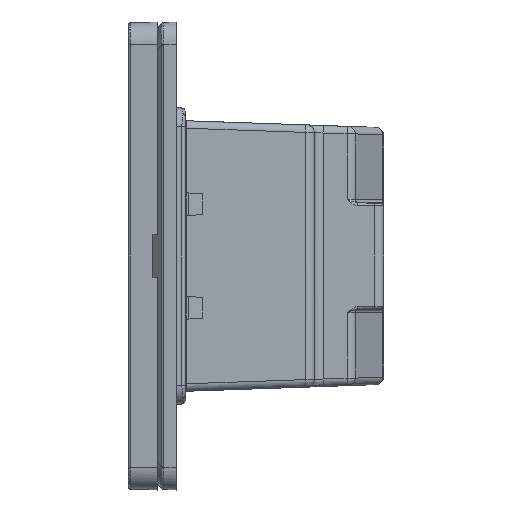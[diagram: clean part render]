
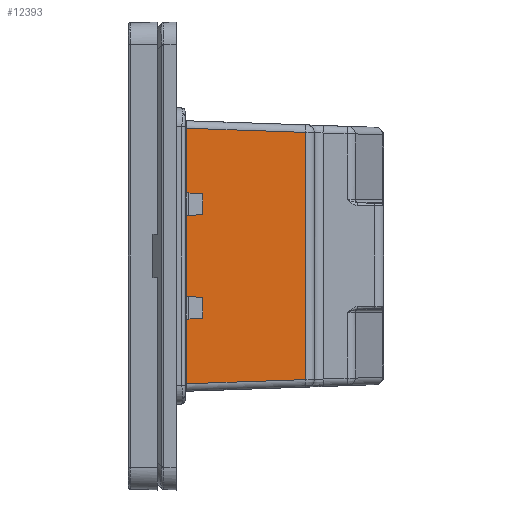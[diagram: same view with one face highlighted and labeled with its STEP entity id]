
A CAD part, left-side view. The second image highlights one B-rep face of the part: STEP entity #12393.
In plain terms, the highlighted planar face has unit normal (-0.999, -0.035, 0).
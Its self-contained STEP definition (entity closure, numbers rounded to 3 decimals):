
#2443 = LINE ( 'NONE', #21684, #29114 ) ;
#4140 = LINE ( 'NONE', #63516, #35721 ) ;
#5926 = VERTEX_POINT ( 'NONE', #62346 ) ;
#6907 = CARTESIAN_POINT ( 'NONE',  ( -31.875, -18.952, -19.676 ) ) ;
#9667 = EDGE_LOOP ( 'NONE', ( #57736, #55132, #40198, #53854 ) ) ;
#10542 = VECTOR ( 'NONE', #12475, 1000. ) ;
#11483 = EDGE_CURVE ( 'NONE', #5926, #55428, #17289, .T. ) ;
#12081 = DIRECTION ( 'NONE',  ( -0.035, 0.999, 0.035 ) ) ;
#12393 = ADVANCED_FACE ( 'NONE', ( #49853 ), #54980, .T. ) ;
#12475 = DIRECTION ( 'NONE',  ( 0., 0., -1. ) ) ;
#15620 = VECTOR ( 'NONE', #25629, 1000. ) ;
#15807 = DIRECTION ( 'NONE',  ( -0.999, -0.035, 0. ) ) ;
#16671 = VERTEX_POINT ( 'NONE', #6907 ) ;
#17289 = LINE ( 'NONE', #36870, #10542 ) ;
#21684 = CARTESIAN_POINT ( 'NONE',  ( -32.751, 6.142, 20.552 ) ) ;
#25629 = DIRECTION ( 'NONE',  ( 0.035, -0.999, 0.035 ) ) ;
#28657 = EDGE_CURVE ( 'NONE', #55428, #16671, #32015, .T. ) ;
#29114 = VECTOR ( 'NONE', #12081, 1000. ) ;
#32015 = LINE ( 'NONE', #55161, #15620 ) ;
#32128 = AXIS2_PLACEMENT_3D ( 'NONE', #45654, #15807, #40187 ) ;
#35721 = VECTOR ( 'NONE', #44550, 1000. ) ;
#36870 = CARTESIAN_POINT ( 'NONE',  ( -32.534, -0.09, 21.75 ) ) ;
#40187 = DIRECTION ( 'NONE',  ( -0.035, 0.999, 0. ) ) ;
#40198 = ORIENTED_EDGE ( 'NONE', *, *, #28657, .T. ) ;
#42317 = EDGE_CURVE ( 'NONE', #16671, #61753, #4140, .T. ) ;
#44550 = DIRECTION ( 'NONE',  ( 0., 0., 1. ) ) ;
#45636 = CARTESIAN_POINT ( 'NONE',  ( -31.875, -18.952, 19.676 ) ) ;
#45654 = CARTESIAN_POINT ( 'NONE',  ( -32.75, 6.1, 21.75 ) ) ;
#49853 = FACE_OUTER_BOUND ( 'NONE', #9667, .T. ) ;
#49998 = CARTESIAN_POINT ( 'NONE',  ( -32.534, -0.09, -20.335 ) ) ;
#53854 = ORIENTED_EDGE ( 'NONE', *, *, #42317, .T. ) ;
#54980 = PLANE ( 'NONE',  #32128 ) ;
#55132 = ORIENTED_EDGE ( 'NONE', *, *, #11483, .T. ) ;
#55161 = CARTESIAN_POINT ( 'NONE',  ( -32.699, 4.626, -20.499 ) ) ;
#55428 = VERTEX_POINT ( 'NONE', #49998 ) ;
#57736 = ORIENTED_EDGE ( 'NONE', *, *, #62324, .T. ) ;
#61753 = VERTEX_POINT ( 'NONE', #45636 ) ;
#62324 = EDGE_CURVE ( 'NONE', #61753, #5926, #2443, .T. ) ;
#62346 = CARTESIAN_POINT ( 'NONE',  ( -32.534, -0.09, 20.335 ) ) ;
#63516 = CARTESIAN_POINT ( 'NONE',  ( -31.875, -18.952, 21.75 ) ) ;
